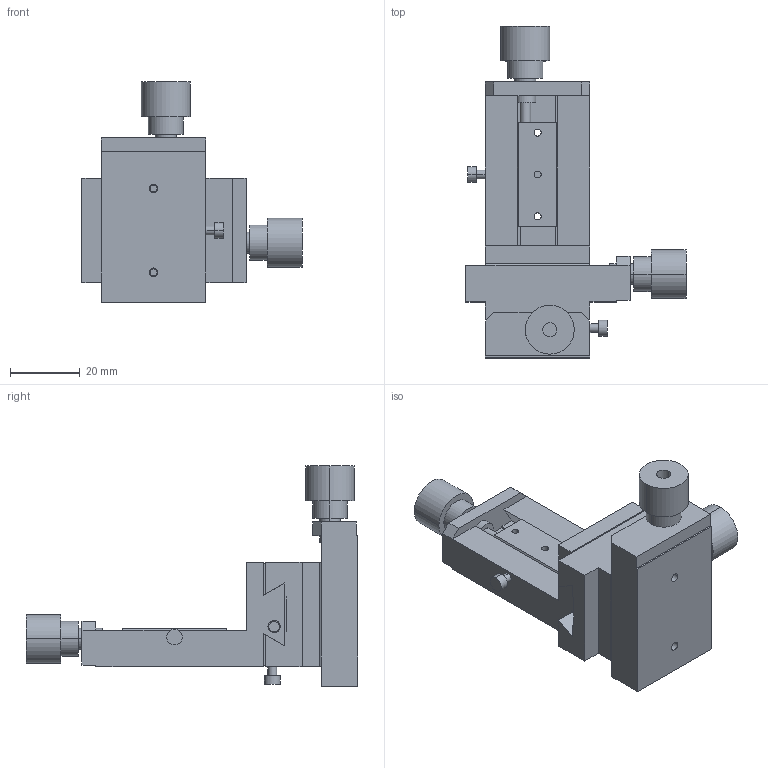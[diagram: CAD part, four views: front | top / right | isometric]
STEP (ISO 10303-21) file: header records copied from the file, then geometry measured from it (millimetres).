
FILE_DESCRIPTION (( 'STEP AP203' ), '1' );
FILE_NAME ('RM-X¥Y¥Z.STEP', '2008-08-05T07:22:01', ( '' ), ( '' ), 'SwSTEP 2.0', 'SolidWorks 2007', '' );
FILE_SCHEMA (( 'CONFIG_CONTROL_DESIGN' ));
Length unit declared in the file: millimetre
Products named in the file (5): RM-X・Y・Z-1; RM-X凸刊; RM-X・Y・Z-2; RM-X・Y・Z-3; RM-X・Y・Z-4
Assembly tree (4 placements, depth 2):
  RM-X凸刊
    RM-X・Y・Z-3
    RM-X・Y・Z-2
    RM-X・Y・Z-4
    RM-X・Y・Z-1
Bounding box: 63 x 95 x 63 mm (x, y, z)
Volume: 55710.8 mm3; surface area: 27722.7 mm2
Topology: 4 solids, 19 shells, 344 faces, 756 edges, 502 vertices
Faces by surface type: cylinder 182, plane 162
Entity records: 10185 total; most frequent: DIRECTION 1822, CARTESIAN_POINT 1609, ORIENTED_EDGE 1512, EDGE_CURVE 756, AXIS2_PLACEMENT_3D 715, VERTEX_POINT 502, EDGE_LOOP 444, LINE 392
